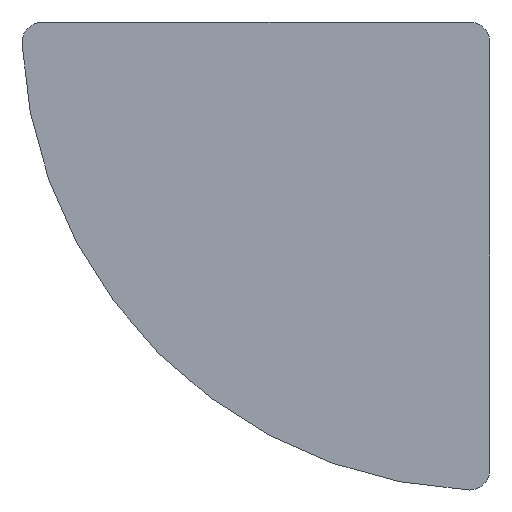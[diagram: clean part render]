
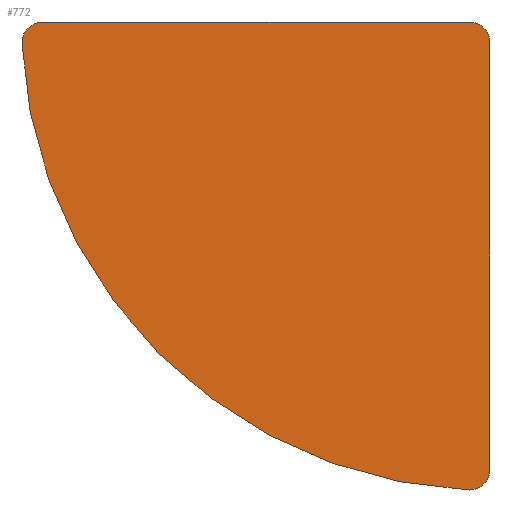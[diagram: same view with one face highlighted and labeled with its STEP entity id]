
A CAD part, front view. The second image highlights one B-rep face of the part: STEP entity #772.
In plain terms, the highlighted planar face has unit normal (0, -1, 0).
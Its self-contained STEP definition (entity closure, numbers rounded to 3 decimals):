
#42 = CARTESIAN_POINT ( 'NONE',  ( 0., 0., 29.766 ) ) ;
#57 = ORIENTED_EDGE ( 'NONE', *, *, #1238, .T. ) ;
#74 = CARTESIAN_POINT ( 'NONE',  ( 19.414, 0., 29.766 ) ) ;
#109 = CARTESIAN_POINT ( 'NONE',  ( -23.54, 0., 27.766 ) ) ;
#134 = CARTESIAN_POINT ( 'NONE',  ( 0., 0., 0. ) ) ;
#166 = ORIENTED_EDGE ( 'NONE', *, *, #287, .F. ) ;
#182 = DIRECTION ( 'NONE',  ( 0., 0., 1. ) ) ;
#214 = DIRECTION ( 'NONE',  ( 0., 0., 1. ) ) ;
#215 = CARTESIAN_POINT ( 'NONE',  ( -23.54, 0., 29.766 ) ) ;
#234 = DIRECTION ( 'NONE',  ( 0., 1., 0. ) ) ;
#238 = CARTESIAN_POINT ( 'NONE',  ( 17.321, 0., -15.186 ) ) ;
#258 = LINE ( 'NONE', #42, #1325 ) ;
#287 = EDGE_CURVE ( 'NONE', #642, #782, #258, .T. ) ;
#288 = VERTEX_POINT ( 'NONE', #1281 ) ;
#294 = DIRECTION ( 'NONE',  ( 0., 1., 0. ) ) ;
#304 = CIRCLE ( 'NONE', #1157, 45. ) ;
#349 = AXIS2_PLACEMENT_3D ( 'NONE', #1047, #426, #1155 ) ;
#358 = ORIENTED_EDGE ( 'NONE', *, *, #686, .F. ) ;
#392 = DIRECTION ( 'NONE',  ( 0., 1., 0. ) ) ;
#399 = CIRCLE ( 'NONE', #998, 2. ) ;
#408 = ORIENTED_EDGE ( 'NONE', *, *, #1031, .T. ) ;
#426 = DIRECTION ( 'NONE',  ( 0., 1., 0. ) ) ;
#429 = DIRECTION ( 'NONE',  ( 0., 0., 1. ) ) ;
#503 = AXIS2_PLACEMENT_3D ( 'NONE', #1015, #392, #1125 ) ;
#540 = ORIENTED_EDGE ( 'NONE', *, *, #711, .T. ) ;
#564 = EDGE_CURVE ( 'NONE', #782, #775, #399, .T. ) ;
#603 = CARTESIAN_POINT ( 'NONE',  ( -25.538, 0., 27.673 ) ) ;
#642 = VERTEX_POINT ( 'NONE', #215 ) ;
#647 = ORIENTED_EDGE ( 'NONE', *, *, #564, .F. ) ;
#675 = EDGE_LOOP ( 'NONE', ( #57, #408, #1312, #358, #540, #647, #166 ) ) ;
#686 = EDGE_CURVE ( 'NONE', #1263, #288, #1277, .T. ) ;
#711 = EDGE_CURVE ( 'NONE', #1263, #775, #1242, .T. ) ;
#734 = CARTESIAN_POINT ( 'NONE',  ( 19.414, 0., 0. ) ) ;
#762 = DIRECTION ( 'NONE',  ( 1., 0., 0. ) ) ;
#772 = ADVANCED_FACE ( 'NONE', ( #933 ), #855, .F. ) ;
#775 = VERTEX_POINT ( 'NONE', #1265 ) ;
#782 = VERTEX_POINT ( 'NONE', #863 ) ;
#790 = VERTEX_POINT ( 'NONE', #238 ) ;
#797 = DIRECTION ( 'NONE',  ( 0., -1., 0. ) ) ;
#821 = CIRCLE ( 'NONE', #991, 2. ) ;
#832 = DIRECTION ( 'NONE',  ( 0., -1., 0. ) ) ;
#855 = PLANE ( 'NONE',  #974 ) ;
#863 = CARTESIAN_POINT ( 'NONE',  ( 17.414, 0., 29.766 ) ) ;
#908 = CARTESIAN_POINT ( 'NONE',  ( 17.414, 0., 27.766 ) ) ;
#933 = FACE_OUTER_BOUND ( 'NONE', #675, .T. ) ;
#959 = DIRECTION ( 'NONE',  ( 0., 0., 1. ) ) ;
#969 = VECTOR ( 'NONE', #429, 1000. ) ;
#974 = AXIS2_PLACEMENT_3D ( 'NONE', #134, #234, #959 ) ;
#991 = AXIS2_PLACEMENT_3D ( 'NONE', #109, #832, #214 ) ;
#998 = AXIS2_PLACEMENT_3D ( 'NONE', #908, #294, #1018 ) ;
#1015 = CARTESIAN_POINT ( 'NONE',  ( 17.414, 0., -13.188 ) ) ;
#1018 = DIRECTION ( 'NONE',  ( 0., 0., 1. ) ) ;
#1030 = CIRCLE ( 'NONE', #503, 2. ) ;
#1031 = EDGE_CURVE ( 'NONE', #1154, #790, #304, .T. ) ;
#1047 = CARTESIAN_POINT ( 'NONE',  ( 17.414, 0., -13.188 ) ) ;
#1096 = EDGE_CURVE ( 'NONE', #288, #790, #1030, .T. ) ;
#1125 = DIRECTION ( 'NONE',  ( 0., 0., 1. ) ) ;
#1154 = VERTEX_POINT ( 'NONE', #603 ) ;
#1155 = DIRECTION ( 'NONE',  ( 0., 0., 1. ) ) ;
#1157 = AXIS2_PLACEMENT_3D ( 'NONE', #74, #797, #182 ) ;
#1238 = EDGE_CURVE ( 'NONE', #642, #1154, #821, .T. ) ;
#1241 = CARTESIAN_POINT ( 'NONE',  ( 19.414, 0., -13.188 ) ) ;
#1242 = LINE ( 'NONE', #734, #969 ) ;
#1263 = VERTEX_POINT ( 'NONE', #1241 ) ;
#1265 = CARTESIAN_POINT ( 'NONE',  ( 19.414, 0., 27.766 ) ) ;
#1277 = CIRCLE ( 'NONE', #349, 2. ) ;
#1281 = CARTESIAN_POINT ( 'NONE',  ( 17.414, 0., -15.188 ) ) ;
#1312 = ORIENTED_EDGE ( 'NONE', *, *, #1096, .F. ) ;
#1325 = VECTOR ( 'NONE', #762, 1000. ) ;
